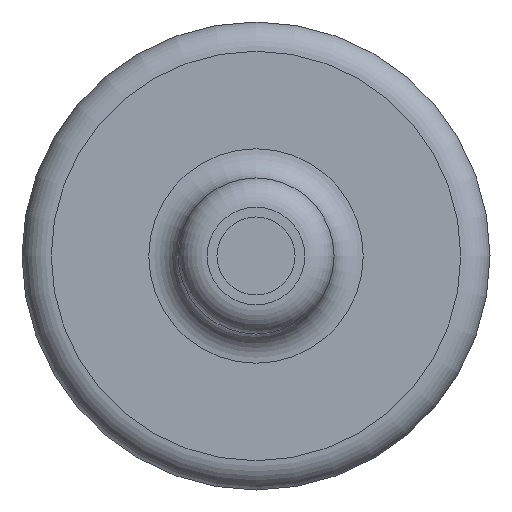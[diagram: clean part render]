
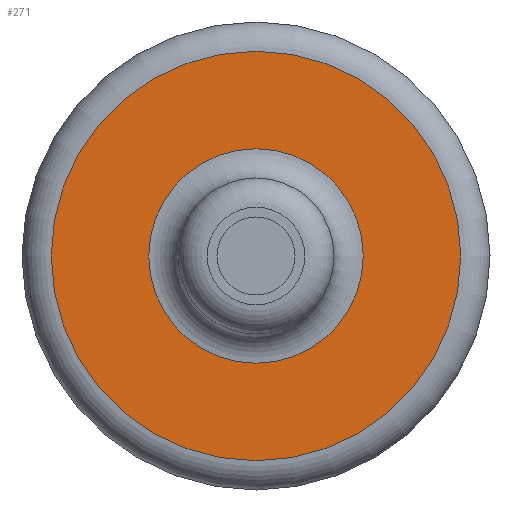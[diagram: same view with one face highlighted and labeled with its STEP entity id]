
A CAD part, left-side view. The second image highlights one B-rep face of the part: STEP entity #271.
In plain terms, the highlighted planar face has unit normal (-1, 0, 0).
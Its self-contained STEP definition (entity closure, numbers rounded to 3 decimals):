
#209=CARTESIAN_POINT('',(30.5,0.,2.1));
#210=VERTEX_POINT('',#209);
#211=CARTESIAN_POINT('',(30.5,0.0,0.));
#212=DIRECTION('',(1.0,0.0,0.0));
#213=DIRECTION('',(0.0,0.0,-1.0));
#214=AXIS2_PLACEMENT_3D('',#211,#212,#213);
#215=CIRCLE('',#214,2.1);
#216=EDGE_CURVE('',#210,#210,#215,.T.);
#252=CARTESIAN_POINT('',(30.5,0.0,1.6));
#253=DIRECTION('',(1.0,0.0,0.0));
#254=DIRECTION('',(0.0,0.0,-1.0));
#255=AXIS2_PLACEMENT_3D('',#252,#253,#254);
#256=PLANE('',#255);
#257=ORIENTED_EDGE('',*,*,#216,.F.);
#258=EDGE_LOOP('',(#257));
#259=FACE_OUTER_BOUND('',#258,.T.);
#260=CARTESIAN_POINT('',(30.5,0.,1.1));
#261=VERTEX_POINT('',#260);
#262=CARTESIAN_POINT('',(30.5,0.0,0.0));
#263=DIRECTION('',(-1.0,0.0,0.0));
#264=DIRECTION('',(0.0,0.0,-1.0));
#265=AXIS2_PLACEMENT_3D('',#262,#263,#264);
#266=CIRCLE('',#265,1.1);
#267=EDGE_CURVE('',#261,#261,#266,.T.);
#268=ORIENTED_EDGE('',*,*,#267,.F.);
#269=EDGE_LOOP('',(#268));
#270=FACE_BOUND('',#269,.T.);
#271=ADVANCED_FACE('',(#259,#270),#256,.F.);
